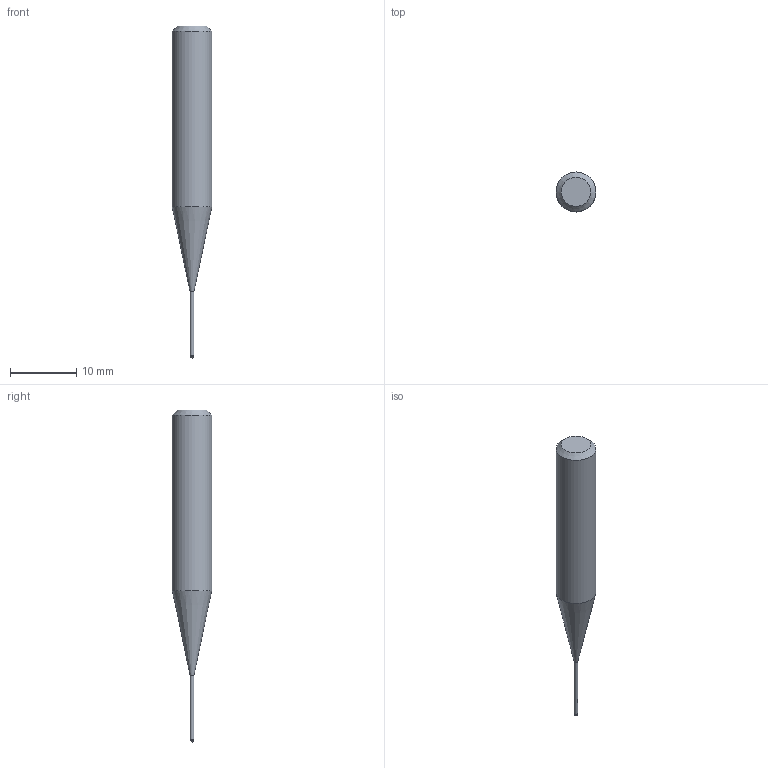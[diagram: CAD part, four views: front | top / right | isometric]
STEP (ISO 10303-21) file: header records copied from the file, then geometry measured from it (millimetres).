
FILE_DESCRIPTION((''),'2;1');
FILE_NAME('C:\Users\nsx150\AppData\Local\Temp\Mastercam 2021\3SYKECWX22\TEMP.step','2021-04-22T10:01:16',(''),(''),'STEP Write','Mastercam 2021 ... CNC Software, Inc.','');
FILE_SCHEMA(('AUTOMOTIVE_DESIGN'));
Length unit declared in the file: millimetre
Products named in the file (1): None
Bounding box: 6 x 6 x 50 mm (x, y, z)
Volume: 899 mm3; surface area: 684.4 mm2
Topology: 2 solids, 2 shells, 9 faces, 14 edges, 8 vertices
Faces by surface type: plane 3, cylinder 3, cone 2, sphere 1
Full cylindrical faces by diameter (mm): 0.56 x1, 0.6 x1, 6 x1
Entity records: 211 total; most frequent: DIRECTION 36, CARTESIAN_POINT 25, AXIS2_PLACEMENT_3D 18, ORIENTED_EDGE 14, EDGE_LOOP 14, STYLED_ITEM 12, ADVANCED_FACE 9, FACE_BOUND 8
